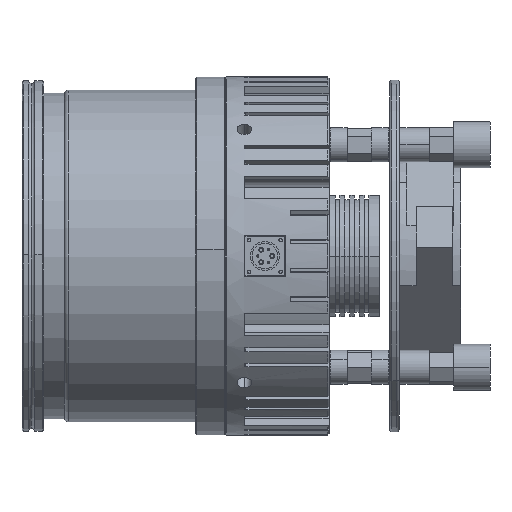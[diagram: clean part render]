
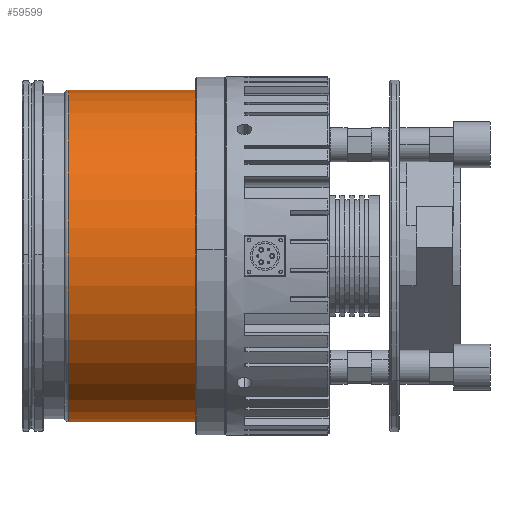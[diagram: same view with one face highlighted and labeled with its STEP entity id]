
A CAD part, left-side view. The second image highlights one B-rep face of the part: STEP entity #59599.
In plain terms, the highlighted cylindrical face has radius 137 mm (diameter 274 mm), a partial arc.
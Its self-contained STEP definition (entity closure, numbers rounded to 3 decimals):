
#1544 = ORIENTED_EDGE ( 'NONE', *, *, #20323, .T. ) ;
#2578 = FACE_OUTER_BOUND ( 'NONE', #8468, .T. ) ;
#5512 = DIRECTION ( 'NONE',  ( 0., -1., 0. ) ) ;
#5827 = CARTESIAN_POINT ( 'NONE',  ( 0., 111.459, -137. ) ) ;
#8468 = EDGE_LOOP ( 'NONE', ( #1544, #10168, #34167, #34984 ) ) ;
#9576 = DIRECTION ( 'NONE',  ( 0., 0., 1. ) ) ;
#9785 = DIRECTION ( 'NONE',  ( 0., 1., 0. ) ) ;
#9949 = CARTESIAN_POINT ( 'NONE',  ( 0., 1., 0. ) ) ;
#10168 = ORIENTED_EDGE ( 'NONE', *, *, #20328, .T. ) ;
#10555 = CARTESIAN_POINT ( 'NONE',  ( 0., 131.5, -137. ) ) ;
#12017 = DIRECTION ( 'NONE',  ( 0., 1., 0. ) ) ;
#14211 = DIRECTION ( 'NONE',  ( 0., 1., 0. ) ) ;
#16667 = CARTESIAN_POINT ( 'NONE',  ( 0., 131.5, 0. ) ) ;
#17709 = VERTEX_POINT ( 'NONE', #33511 ) ;
#20017 = VERTEX_POINT ( 'NONE', #22053 ) ;
#20053 = EDGE_CURVE ( 'NONE', #17709, #20017, #44597, .T. ) ;
#20060 = EDGE_CURVE ( 'NONE', #40213, #20017, #44312, .T. ) ;
#20323 = EDGE_CURVE ( 'NONE', #17709, #33967, #35117, .T. ) ;
#20328 = EDGE_CURVE ( 'NONE', #33967, #40213, #34407, .T. ) ;
#20635 = CARTESIAN_POINT ( 'NONE',  ( 0., 111.459, 0. ) ) ;
#21098 = DIRECTION ( 'NONE',  ( 0., 1., 0. ) ) ;
#22053 = CARTESIAN_POINT ( 'NONE',  ( 0., 111.459, 137. ) ) ;
#26586 = CARTESIAN_POINT ( 'NONE',  ( 0., 131.5, 137. ) ) ;
#27036 = CARTESIAN_POINT ( 'NONE',  ( 0., 1., -137. ) ) ;
#33511 = CARTESIAN_POINT ( 'NONE',  ( 0., 1., 137. ) ) ;
#33967 = VERTEX_POINT ( 'NONE', #27036 ) ;
#34167 = ORIENTED_EDGE ( 'NONE', *, *, #20060, .T. ) ;
#34407 = LINE ( 'NONE', #10555, #35215 ) ;
#34984 = ORIENTED_EDGE ( 'NONE', *, *, #20053, .F. ) ;
#35117 = CIRCLE ( 'NONE', #43567, 137. ) ;
#35215 = VECTOR ( 'NONE', #14211, 1000. ) ;
#40213 = VERTEX_POINT ( 'NONE', #5827 ) ;
#42612 = VECTOR ( 'NONE', #21098, 1000. ) ;
#43567 = AXIS2_PLACEMENT_3D ( 'NONE', #9949, #9785, #9576 ) ;
#44090 = AXIS2_PLACEMENT_3D ( 'NONE', #20635, #5512, #49646 ) ;
#44192 = DIRECTION ( 'NONE',  ( 0., 0., 1. ) ) ;
#44312 = CIRCLE ( 'NONE', #44090, 137. ) ;
#44597 = LINE ( 'NONE', #26586, #42612 ) ;
#49646 = DIRECTION ( 'NONE',  ( 0., 0., 1. ) ) ;
#55446 = AXIS2_PLACEMENT_3D ( 'NONE', #16667, #12017, #44192 ) ;
#59351 = CYLINDRICAL_SURFACE ( 'NONE', #55446, 137. ) ;
#59599 = ADVANCED_FACE ( 'NONE', ( #2578 ), #59351, .T. ) ;
